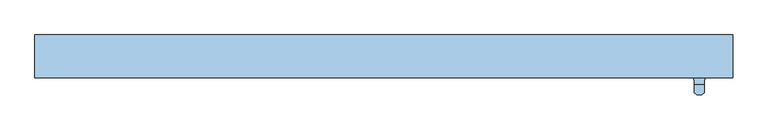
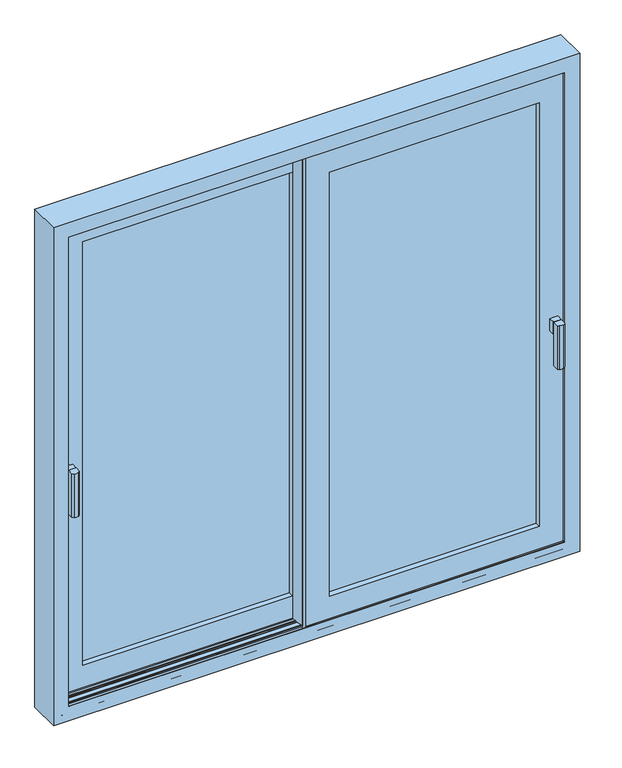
"""IFC4 building model written with IfcOpenShell, lengths in millimetres: window geometry, Windows_Opening-Slide_Exlabesa_ELEVABLE-GR-Balcony-2-Panel-Sliding : ELEVABLE_GR_2000x2000 mm Slide 3."""

from ifc_helpers import new_model, si_unit, point, frame, frame_2d, origin, place, context, project, spatial, polyline, circle_curve, ellipse_curve, trimmed, segment, composite_curve, outline, extrude, source, transform, mapped, element, save
from ifc_brep_helpers import plane_surface, cylinder_surface, revolved_surface, advanced_brep


def window_ca4f18a3(model_context):
    return source(origin(), model_context, "Body", "SolidModel", [
        extrude(outline(composite_curve([segment(trimmed(circle_curve(frame_2d((-147.2565194, 380.4626103)), 200.0), [point((45.9189448, 432.2626103))], [point((52.7425806, 379.8626103))], False, "CARTESIAN"), True, "CONTINUOUS"), segment(polyline([(52.7425806, 379.8626103), (-33.4565194, 379.8626103), (-33.4565194, 333.8344537), (-45.9189448, 333.8344537)]), True, "CONTINUOUS"), segment(trimmed(circle_curve(frame_2d((147.2565194, 385.6344537)), 200.0), [point((-45.9189448, 333.8344537))], [point((-52.7425806, 386.2344537))], False, "CARTESIAN"), True, "CONTINUOUS"), segment(polyline([(-52.7425806, 386.2344537), (33.4565194, 386.2344537), (33.4565194, 432.2626103), (45.9189448, 432.2626103)]), True, "CONTINUOUS")], self_intersect=False)), frame((0.0, 0.0, 60.0), z_axis=(0.0, 0.0, 1.0), x_axis=(1.0, 0.0, 0.0)), (0.0, 0.0, 1.0), 1880.0),
        advanced_brep(
        [(-13.56, 333.798532, 1917.0), (-13.56, 341.048532, 1917.0), (-13.56, 341.048532, 83.0), (-13.56, 333.798532, 83.0), (917.0, 341.048532, 1917.0), (917.0, 341.048532, 83.0), (9.94, 341.048532, 1893.5), (9.94, 341.048532, 106.5), (893.5, 341.048532, 106.5), (893.5, 341.048532, 1893.5), (917.0, 333.798532, 83.0), (949.4076311, 333.798532, 1949.4076311), (949.4076311, 333.798532, 50.5923689), (-45.9676311, 333.798532, 50.5923689), (-45.9676311, 333.798532, 1949.4076311), (917.0, 333.798532, 1917.0), (-36.4282391, 326.798532, 1939.8682391), (-36.4282391, 326.798532, 60.1317609), (939.8682391, 326.798532, 60.1317609), (939.8682391, 326.798532, 1939.8682391), (850.7, 326.798532, 1850.7), (850.7, 326.798532, 149.3), (52.74, 326.798532, 149.3), (52.74, 326.798532, 1850.7), (850.7, 347.798532, 149.3), (850.7, 347.798532, 1850.7), (52.74, 347.798532, 149.3), (52.74, 347.798532, 1850.7), (858.9, 347.798532, 1858.9), (858.9, 347.798532, 141.1), (44.54, 347.798532, 141.1), (44.54, 347.798532, 1858.9), (44.54, 344.798532, 1858.9), (44.54, 344.798532, 141.1), (858.9, 344.798532, 141.1), (872.7, 344.798532, 1872.7), (872.7, 344.798532, 127.3), (30.74, 344.798532, 127.3), (30.74, 344.798532, 1872.7), (858.9, 344.798532, 1858.9), (30.74, 348.898532, 1872.7), (30.74, 348.898532, 127.3), (872.7, 348.898532, 127.3), (877.2, 348.898532, 1877.2), (877.2, 348.898532, 122.8), (26.24, 348.898532, 122.8), (26.24, 348.898532, 1877.2), (872.7, 348.898532, 1872.7), (26.24, 372.298532, 1877.2), (26.24, 372.298532, 122.8), (877.2, 372.298532, 122.8), (877.2, 372.298532, 1877.2), (850.7, 372.298532, 1850.7), (850.7, 372.298532, 149.3), (52.74, 372.298532, 149.3), (52.74, 372.298532, 1850.7), (52.74, 377.298532, 1850.7), (52.74, 377.298532, 149.3), (850.7, 377.298532, 149.3), (939.8682391, 377.298532, 1939.8682391), (939.8682391, 377.298532, 60.1317609), (-36.4282391, 377.298532, 60.1317609), (-36.4282391, 377.298532, 1939.8682391), (850.7, 377.298532, 1850.7), (-45.9676311, 370.298532, 1949.4076311), (-45.9676311, 370.298532, 50.5923689), (949.4076311, 370.298532, 50.5923689), (949.4076311, 370.298532, 1949.4076311), (917.0, 370.298532, 1917.0), (917.0, 370.298532, 83.0), (-13.56, 370.298532, 83.0), (-13.56, 370.298532, 1917.0), (917.0, 363.048532, 83.0), (917.0, 363.048532, 1917.0), (-13.56, 363.048532, 83.0), (-13.56, 363.048532, 1917.0), (893.5, 363.048532, 1893.5), (893.5, 363.048532, 106.5), (9.94, 363.048532, 106.5), (9.94, 363.048532, 1893.5)],
        [
            (0, 1),
            (1, 2),
            (2, 3),
            (3, 0),
            (4, 5),
            (5, 2),
            (1, 4),
            (6, 7),
            (7, 8),
            (8, 9),
            (9, 6),
            (5, 10),
            (10, 3),
            (11, 12),
            (12, 13),
            (13, 14),
            (14, 11),
            (10, 15),
            (15, 0),
            (4, 15),
            (16, 17),
            (17, 18),
            (18, 19),
            (19, 16),
            (20, 21),
            (21, 22),
            (22, 23),
            (23, 20),
            (16, 14, ellipse_curve(frame((-36.4282391, 336.798532, 1939.8682391), z_axis=(-0.7071067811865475, 0.0, -0.7071067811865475), x_axis=(-0.7071067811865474, 0.0, 0.7071067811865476)), 14.1421356, 10.0)),
            (13, 17, ellipse_curve(frame((-36.4282391, 336.798532, 60.1317609), z_axis=(-0.7071067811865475, 0.0, 0.7071067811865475), x_axis=(0.7071067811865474, 0.0, 0.7071067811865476)), 14.1421356, 10.0)),
            (12, 18, ellipse_curve(frame((939.8682391, 336.798532, 60.1317609), z_axis=(-0.7071067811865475, 0.0, -0.7071067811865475), x_axis=(-0.7071067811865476, 0.0, 0.7071067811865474)), 14.1421356, 10.0)),
            (11, 19, ellipse_curve(frame((939.8682391, 336.798532, 1939.8682391), z_axis=(0.7071067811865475, 0.0, -0.7071067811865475), x_axis=(-0.7071067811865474, 0.0, -0.7071067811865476)), 14.1421356, 10.0)),
            (24, 21),
            (20, 25),
            (25, 24),
            (26, 22),
            (24, 26),
            (27, 23),
            (26, 27),
            (28, 29),
            (29, 30),
            (30, 31),
            (31, 28),
            (25, 27),
            (32, 31),
            (30, 33),
            (33, 32),
            (29, 34),
            (34, 33),
            (35, 36),
            (36, 37),
            (37, 38),
            (38, 35),
            (34, 39),
            (39, 32),
            (40, 38),
            (37, 41),
            (41, 40),
            (36, 42),
            (42, 41),
            (43, 44),
            (44, 45),
            (45, 46),
            (46, 43),
            (42, 47),
            (47, 40),
            (48, 46),
            (45, 49),
            (49, 48),
            (44, 50),
            (50, 49),
            (50, 51),
            (51, 48),
            (52, 53),
            (53, 54),
            (54, 55),
            (55, 52),
            (56, 55),
            (54, 57),
            (57, 56),
            (53, 58),
            (58, 57),
            (59, 60),
            (60, 61),
            (61, 62),
            (62, 59),
            (58, 63),
            (63, 56),
            (64, 62, ellipse_curve(frame((-36.4282391, 367.298532, 1939.8682391), z_axis=(-0.7071067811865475, 0.0, -0.7071067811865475), x_axis=(-0.7071067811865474, 0.0, 0.7071067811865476)), 14.1421356, 10.0)),
            (61, 65, ellipse_curve(frame((-36.4282391, 367.298532, 60.1317609), z_axis=(-0.7071067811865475, 0.0, 0.7071067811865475), x_axis=(0.7071067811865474, 0.0, 0.7071067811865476)), 14.1421356, 10.0)),
            (65, 64),
            (60, 66, ellipse_curve(frame((939.8682391, 367.298532, 60.1317609), z_axis=(-0.7071067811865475, 0.0, -0.7071067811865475), x_axis=(-0.7071067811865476, 0.0, 0.7071067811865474)), 14.1421356, 10.0)),
            (66, 65),
            (66, 67),
            (67, 64),
            (68, 69),
            (69, 70),
            (70, 71),
            (71, 68),
            (28, 39),
            (35, 47),
            (43, 51),
            (52, 63),
            (59, 67, ellipse_curve(frame((939.8682391, 367.298532, 1939.8682391), z_axis=(0.7071067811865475, 0.0, -0.7071067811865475), x_axis=(-0.7071067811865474, 0.0, -0.7071067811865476)), 14.1421356, 10.0)),
            (72, 69),
            (68, 73),
            (73, 72),
            (74, 70),
            (72, 74),
            (75, 71),
            (74, 75),
            (73, 75),
            (76, 77),
            (77, 78),
            (78, 79),
            (79, 76),
            (6, 79),
            (78, 7),
            (77, 8),
            (76, 9),
        ],
        [
            plane_surface(frame((-13.56, 341.048532, 1917.0), z_axis=(-1.0, 0.0, 0.0), x_axis=(0.0, 0.0, -1.0))),
            plane_surface(frame((893.5, 341.048532, 106.5), z_axis=(0.0, 1.0, 0.0), x_axis=(0.0, 0.0, 1.0))),
            plane_surface(frame((-13.56, 341.048532, 83.0), z_axis=(0.0, 0.0, -1.0), x_axis=(1.0, 0.0, 0.0))),
            plane_surface(frame((917.0, 333.798532, 83.0), z_axis=(0.0, 1.0, 0.0), x_axis=(0.0, 0.0, 1.0))),
            plane_surface(frame((917.0, 341.048532, 83.0), z_axis=(1.0, 0.0, 0.0), x_axis=(0.0, 0.0, 1.0))),
            plane_surface(frame((939.8682391, 326.798532, 60.1317609), z_axis=(0.0, -1.0, 0.0), x_axis=(0.0, 0.0, 1.0))),
            cylinder_surface(frame((-36.4282391, 336.798532, 2000.0), z_axis=(0.0, 0.0, 1.0), x_axis=(1.0, 0.0, 0.0)), 10.0),
            cylinder_surface(frame((-96.56, 336.798532, 60.1317609), z_axis=(-1.0, 0.0, 0.0), x_axis=(0.0, 0.0, 1.0)), 10.0),
            cylinder_surface(frame((939.8682391, 336.798532, 0.0), z_axis=(0.0, 0.0, -1.0), x_axis=(-1.0, 0.0, 0.0)), 10.0),
            plane_surface(frame((850.7, 326.798532, 149.3), z_axis=(-1.0, 0.0, 0.0), x_axis=(0.0, 0.0, 1.0))),
            plane_surface(frame((52.74, 326.798532, 149.3), z_axis=(0.0, 0.0, 1.0), x_axis=(1.0, 0.0, 0.0))),
            plane_surface(frame((52.74, 326.798532, 1850.7), z_axis=(1.0, 0.0, 0.0), x_axis=(0.0, 0.0, -1.0))),
            plane_surface(frame((850.7, 347.798532, 149.3), z_axis=(0.0, 1.0, 0.0), x_axis=(0.0, 0.0, 1.0))),
            plane_surface(frame((44.54, 347.798532, 1858.9), z_axis=(-1.0, 0.0, 0.0), x_axis=(0.0, 0.0, -1.0))),
            plane_surface(frame((44.54, 347.798532, 141.1), z_axis=(0.0, 0.0, -1.0), x_axis=(1.0, 0.0, 0.0))),
            plane_surface(frame((858.9, 344.798532, 141.1), z_axis=(0.0, 1.0, 0.0), x_axis=(0.0, 0.0, 1.0))),
            plane_surface(frame((30.74, 344.798532, 1872.7), z_axis=(1.0, 0.0, 0.0), x_axis=(0.0, 0.0, -1.0))),
            plane_surface(frame((30.74, 344.798532, 127.3), z_axis=(0.0, 0.0, 1.0), x_axis=(1.0, 0.0, 0.0))),
            plane_surface(frame((872.7, 348.898532, 127.3), z_axis=(0.0, 1.0, 0.0), x_axis=(0.0, 0.0, 1.0))),
            plane_surface(frame((26.24, 348.898532, 1877.2), z_axis=(1.0, 0.0, 0.0), x_axis=(0.0, 0.0, -1.0))),
            plane_surface(frame((26.24, 348.898532, 122.8), z_axis=(0.0, 0.0, 1.0), x_axis=(1.0, 0.0, 0.0))),
            plane_surface(frame((877.2, 372.298532, 122.8), z_axis=(0.0, -1.0, 0.0), x_axis=(0.0, 0.0, 1.0))),
            plane_surface(frame((52.74, 372.298532, 1850.7), z_axis=(1.0, 0.0, 0.0), x_axis=(0.0, 0.0, -1.0))),
            plane_surface(frame((52.74, 372.298532, 149.3), z_axis=(0.0, 0.0, 1.0), x_axis=(1.0, 0.0, 0.0))),
            plane_surface(frame((850.7, 377.298532, 149.3), z_axis=(0.0, 1.0, 0.0), x_axis=(0.0, 0.0, 1.0))),
            cylinder_surface(frame((-36.4282391, 367.298532, 2000.0), z_axis=(0.0, 0.0, 1.0), x_axis=(1.0, 0.0, 0.0)), 10.0),
            cylinder_surface(frame((-96.56, 367.298532, 60.1317609), z_axis=(-1.0, 0.0, 0.0), x_axis=(0.0, 0.0, 1.0)), 10.0),
            plane_surface(frame((949.4076311, 370.298532, 50.5923689), z_axis=(0.0, -1.0, 0.0), x_axis=(0.0, 0.0, 1.0))),
            plane_surface(frame((858.9, 347.798532, 141.1), z_axis=(1.0, 0.0, 0.0), x_axis=(0.0, 0.0, 1.0))),
            plane_surface(frame((872.7, 344.798532, 127.3), z_axis=(-1.0, 0.0, 0.0), x_axis=(0.0, 0.0, 1.0))),
            plane_surface(frame((877.2, 348.898532, 122.8), z_axis=(-1.0, 0.0, 0.0), x_axis=(0.0, 0.0, 1.0))),
            plane_surface(frame((850.7, 372.298532, 149.3), z_axis=(-1.0, 0.0, 0.0), x_axis=(0.0, 0.0, 1.0))),
            cylinder_surface(frame((939.8682391, 367.298532, 0.0), z_axis=(0.0, 0.0, -1.0), x_axis=(-1.0, 0.0, 0.0)), 10.0),
            plane_surface(frame((917.0, 370.298532, 83.0), z_axis=(1.0, 0.0, 0.0), x_axis=(0.0, 0.0, 1.0))),
            plane_surface(frame((-13.56, 370.298532, 83.0), z_axis=(0.0, 0.0, -1.0), x_axis=(1.0, 0.0, 0.0))),
            plane_surface(frame((-13.56, 370.298532, 1917.0), z_axis=(-1.0, 0.0, 0.0), x_axis=(0.0, 0.0, -1.0))),
            plane_surface(frame((917.0, 363.048532, 83.0), z_axis=(0.0, -1.0, 0.0), x_axis=(0.0, 0.0, 1.0))),
            plane_surface(frame((9.94, 363.048532, 1893.5), z_axis=(-1.0, 0.0, 0.0), x_axis=(0.0, 0.0, -1.0))),
            plane_surface(frame((9.94, 363.048532, 106.5), z_axis=(0.0, 0.0, -1.0), x_axis=(1.0, 0.0, 0.0))),
            plane_surface(frame((893.5, 363.048532, 106.5), z_axis=(1.0, 0.0, 0.0), x_axis=(0.0, 0.0, 1.0))),
            plane_surface(frame((917.0, 341.048532, 1917.0), z_axis=(0.0, 0.0, 1.0), x_axis=(-1.0, 0.0, 0.0))),
            plane_surface(frame((850.7, 326.798532, 1850.7), z_axis=(0.0, 0.0, -1.0), x_axis=(-1.0, 0.0, 0.0))),
            plane_surface(frame((858.9, 347.798532, 1858.9), z_axis=(0.0, 0.0, 1.0), x_axis=(-1.0, 0.0, 0.0))),
            plane_surface(frame((872.7, 344.798532, 1872.7), z_axis=(0.0, 0.0, -1.0), x_axis=(-1.0, 0.0, 0.0))),
            plane_surface(frame((877.2, 348.898532, 1877.2), z_axis=(0.0, 0.0, -1.0), x_axis=(-1.0, 0.0, 0.0))),
            plane_surface(frame((850.7, 372.298532, 1850.7), z_axis=(0.0, 0.0, -1.0), x_axis=(-1.0, 0.0, 0.0))),
            cylinder_surface(frame((1000.0, 367.298532, 1939.8682391), z_axis=(1.0, 0.0, 0.0), x_axis=(0.0, 0.0, -1.0)), 10.0),
            cylinder_surface(frame((1000.0, 336.798532, 1939.8682391), z_axis=(1.0, 0.0, 0.0), x_axis=(0.0, 0.0, -1.0)), 10.0),
            plane_surface(frame((917.0, 370.298532, 1917.0), z_axis=(0.0, 0.0, 1.0), x_axis=(-1.0, 0.0, 0.0))),
            plane_surface(frame((893.5, 363.048532, 1893.5), z_axis=(0.0, 0.0, 1.0), x_axis=(-1.0, 0.0, 0.0))),
        ],
        [
            (0, [[1, 2, 3, 4]]),
            (1, [[5, 6, -2, 7], [8, 9, 10, 11]]),
            (2, [[-3, -6, 12, 13]]),
            (3, [[14, 15, 16, 17], [-4, -13, 18, 19]]),
            (4, [[-12, -5, 20, -18]]),
            (5, [[21, 22, 23, 24], [25, 26, 27, 28]]),
            (6, [[29, -16, 30, -21]]),
            (7, [[-30, -15, 31, -22]]),
            (8, [[-31, -14, 32, -23]]),
            (9, [[33, -25, 34, 35]]),
            (10, [[36, -26, -33, 37]]),
            (11, [[38, -27, -36, 39]]),
            (12, [[40, 41, 42, 43], [-39, -37, -35, 44]]),
            (13, [[45, -42, 46, 47]]),
            (14, [[-46, -41, 48, 49]]),
            (15, [[50, 51, 52, 53], [-47, -49, 54, 55]]),
            (16, [[56, -52, 57, 58]]),
            (17, [[-57, -51, 59, 60]]),
            (18, [[61, 62, 63, 64], [-58, -60, 65, 66]]),
            (19, [[67, -63, 68, 69]]),
            (20, [[-68, -62, 70, 71]]),
            (21, [[-69, -71, 72, 73], [74, 75, 76, 77]]),
            (22, [[78, -76, 79, 80]]),
            (23, [[-79, -75, 81, 82]]),
            (24, [[83, 84, 85, 86], [-80, -82, 87, 88]]),
            (25, [[89, -85, 90, 91]]),
            (26, [[-90, -84, 92, 93]]),
            (27, [[-91, -93, 94, 95], [96, 97, 98, 99]]),
            (28, [[-48, -40, 100, -54]]),
            (29, [[-59, -50, 101, -65]]),
            (30, [[-70, -61, 102, -72]]),
            (31, [[-81, -74, 103, -87]]),
            (32, [[-92, -83, 104, -94]]),
            (33, [[105, -96, 106, 107]]),
            (34, [[108, -97, -105, 109]]),
            (35, [[110, -98, -108, 111]]),
            (36, [[-111, -109, -107, 112], [113, 114, 115, 116]]),
            (37, [[117, -115, 118, -8]]),
            (38, [[-118, -114, 119, -9]]),
            (39, [[-119, -113, 120, -10]]),
            (40, [[-20, -7, -1, -19]]),
            (41, [[-34, -28, -38, -44]]),
            (42, [[-100, -43, -45, -55]]),
            (43, [[-101, -53, -56, -66]]),
            (44, [[-102, -64, -67, -73]]),
            (45, [[-103, -77, -78, -88]]),
            (46, [[-104, -86, -89, -95]]),
            (47, [[-32, -17, -29, -24]]),
            (48, [[-106, -99, -110, -112]]),
            (49, [[-120, -116, -117, -11]]),
        ],
    ),
        advanced_brep(
        [(-1000.0, 321.548532, 2000.0), (-1000.0, 444.548532, 2000.0), (-1000.0, 444.548532, 0.0), (-1000.0, 321.548532, 0.0), (1000.0, 444.548532, 2000.0), (1000.0, 444.548532, 0.0), (-972.7679492, 444.548532, 1972.7679492), (-972.7679492, 444.548532, 27.2320508), (972.7679492, 444.548532, 27.2320508), (972.7679492, 444.548532, 1972.7679492), (1000.0, 321.548532, 0.0), (1000.0, 321.548532, 2000.0), (942.0, 321.548532, 1942.0), (942.0, 321.548532, 58.0), (-942.0, 321.548532, 58.0), (-942.0, 321.548532, 1942.0), (-960.2971834, 422.948532, 1960.2971834), (-960.2971834, 422.948532, 39.7028166), (960.2971834, 422.948532, 39.7028166), (960.2971834, 422.948532, 1960.2971834), (-942.0, 323.348532, 1942.0), (-942.0, 323.348532, 58.0), (942.0, 323.348532, 58.0), (968.0, 323.348532, 1968.0), (968.0, 323.348532, 32.0), (-968.0, 323.348532, 32.0), (-968.0, 323.348532, 1968.0), (942.0, 323.348532, 1942.0), (-969.7320508, 326.348532, 1969.7320508), (-969.7320508, 326.348532, 30.2679492), (969.7320508, 326.348532, 30.2679492), (-960.0325663, 343.148532, 1960.0325663), (-960.0325663, 343.148532, 39.9674337), (960.0325663, 343.148532, 39.9674337), (960.0325663, 343.148532, 1960.0325663), (945.0, 343.148532, 1945.0), (945.0, 343.148532, 55.0), (-945.0, 343.148532, 55.0), (-945.0, 343.148532, 1945.0), (-945.0, 336.798532, 1945.0), (-945.0, 336.798532, 55.0), (945.0, 336.798532, 55.0), (945.0, 336.798532, 1945.0), (940.0, 336.798532, 1940.0), (940.0, 336.798532, 60.0), (-940.0, 336.798532, 60.0), (-940.0, 336.798532, 1940.0), (-940.0, 341.748532, 1940.0), (-940.0, 341.748532, 60.0), (940.0, 341.748532, 60.0), (942.0, 341.748532, 1942.0), (942.0, 341.748532, 58.0), (-942.0, 341.748532, 58.0), (-942.0, 341.748532, 1942.0), (940.0, 341.748532, 1940.0), (-942.0, 362.348532, 1942.0), (-942.0, 362.348532, 58.0), (942.0, 362.348532, 58.0), (942.0, 362.348532, 1942.0), (940.0, 362.348532, 1940.0), (940.0, 362.348532, 60.0), (-940.0, 362.348532, 60.0), (-940.0, 362.348532, 1940.0), (-940.0, 367.298532, 1940.0), (-940.0, 367.298532, 60.0), (940.0, 367.298532, 60.0), (945.0, 367.298532, 1945.0), (945.0, 367.298532, 55.0), (-945.0, 367.298532, 55.0), (-945.0, 367.298532, 1945.0), (940.0, 367.298532, 1940.0), (-945.0, 362.748532, 1945.0), (-945.0, 362.748532, 55.0), (945.0, 362.748532, 55.0), (964.5240287, 362.748532, 1964.5240287), (964.5240287, 362.748532, 35.4759713), (-964.5240287, 362.748532, 35.4759713), (-964.5240287, 362.748532, 1964.5240287), (945.0, 362.748532, 1945.0), (-965.2327287, 403.348532, 1965.2327287), (-965.2327287, 403.348532, 34.7672713), (965.2327287, 403.348532, 34.7672713), (965.2327287, 403.348532, 1965.2327287), (945.0, 403.348532, 1945.0), (945.0, 403.348532, 55.0), (-945.0, 403.348532, 55.0), (-945.0, 403.348532, 1945.0), (-945.0, 398.798532, 1945.0), (-945.0, 398.798532, 55.0), (945.0, 398.798532, 55.0), (945.0, 398.798532, 1945.0), (940.0, 398.798532, 1940.0), (940.0, 398.798532, 60.0), (-940.0, 398.798532, 60.0), (-940.0, 398.798532, 1940.0), (-940.0, 403.748532, 1940.0), (-940.0, 403.748532, 60.0), (940.0, 403.748532, 60.0), (942.0, 403.748532, 1942.0), (942.0, 403.748532, 58.0), (-942.0, 403.748532, 58.0), (-942.0, 403.748532, 1942.0), (940.0, 403.748532, 1940.0), (-942.0, 424.348532, 1942.0), (-942.0, 424.348532, 58.0), (942.0, 424.348532, 58.0), (942.0, 424.348532, 1942.0), (940.0, 424.348532, 1940.0), (940.0, 424.348532, 60.0), (-940.0, 424.348532, 60.0), (-940.0, 424.348532, 1940.0), (-940.0, 429.298532, 1940.0), (-940.0, 429.298532, 60.0), (940.0, 429.298532, 60.0), (945.0, 429.298532, 1945.0), (945.0, 429.298532, 55.0), (-945.0, 429.298532, 55.0), (-945.0, 429.298532, 1945.0), (940.0, 429.298532, 1940.0), (-945.0, 422.948532, 1945.0), (-945.0, 422.948532, 55.0), (945.0, 422.948532, 55.0), (945.0, 422.948532, 1945.0), (969.7320508, 326.348532, 1969.7320508)],
        [
            (0, 1),
            (1, 2),
            (2, 3),
            (3, 0),
            (4, 5),
            (5, 2),
            (1, 4),
            (6, 7),
            (7, 8),
            (8, 9),
            (9, 6),
            (5, 10),
            (10, 3),
            (10, 11),
            (11, 0),
            (12, 13),
            (13, 14),
            (14, 15),
            (15, 12),
            (4, 11),
            (6, 16),
            (16, 17),
            (17, 7),
            (17, 18),
            (18, 8),
            (18, 19),
            (19, 9),
            (20, 15),
            (14, 21),
            (21, 20),
            (13, 22),
            (22, 21),
            (23, 24),
            (24, 25),
            (25, 26),
            (26, 23),
            (22, 27),
            (27, 20),
            (28, 26, ellipse_curve(frame((-968.0, 325.348532, 1968.0), z_axis=(0.7071067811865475, 0.0, 0.7071067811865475), x_axis=(0.7071067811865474, 0.0, -0.7071067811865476)), 2.8284271, 2.0)),
            (25, 29, ellipse_curve(frame((-968.0, 325.348532, 32.0), z_axis=(0.7071067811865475, 0.0, -0.7071067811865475), x_axis=(-0.7071067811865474, 0.0, -0.7071067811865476)), 2.8284271, 2.0)),
            (29, 28),
            (24, 30, ellipse_curve(frame((968.0, 325.348532, 32.0), z_axis=(0.7071067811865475, 0.0, 0.7071067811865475), x_axis=(0.7071067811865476, 0.0, -0.7071067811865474)), 2.8284271, 2.0)),
            (30, 29),
            (31, 28),
            (29, 32),
            (32, 31),
            (30, 33),
            (33, 32),
            (33, 34),
            (34, 31),
            (35, 36),
            (36, 37),
            (37, 38),
            (38, 35),
            (39, 38),
            (37, 40),
            (40, 39),
            (36, 41),
            (41, 40),
            (41, 42),
            (42, 39),
            (43, 44),
            (44, 45),
            (45, 46),
            (46, 43),
            (47, 46),
            (45, 48),
            (48, 47),
            (44, 49),
            (49, 48),
            (50, 51),
            (51, 52),
            (52, 53),
            (53, 50),
            (49, 54),
            (54, 47),
            (55, 53),
            (52, 56),
            (56, 55),
            (51, 57),
            (57, 56),
            (57, 58),
            (58, 55),
            (59, 60),
            (60, 61),
            (61, 62),
            (62, 59),
            (63, 62),
            (61, 64),
            (64, 63),
            (60, 65),
            (65, 64),
            (66, 67),
            (67, 68),
            (68, 69),
            (69, 66),
            (65, 70),
            (70, 63),
            (71, 69),
            (68, 72),
            (72, 71),
            (67, 73),
            (73, 72),
            (74, 75),
            (75, 76),
            (76, 77),
            (77, 74),
            (73, 78),
            (78, 71),
            (79, 77),
            (76, 80),
            (80, 79),
            (75, 81),
            (81, 80),
            (81, 82),
            (82, 79),
            (83, 84),
            (84, 85),
            (85, 86),
            (86, 83),
            (87, 86),
            (85, 88),
            (88, 87),
            (84, 89),
            (89, 88),
            (89, 90),
            (90, 87),
            (91, 92),
            (92, 93),
            (93, 94),
            (94, 91),
            (95, 94),
            (93, 96),
            (96, 95),
            (92, 97),
            (97, 96),
            (98, 99),
            (99, 100),
            (100, 101),
            (101, 98),
            (97, 102),
            (102, 95),
            (103, 101),
            (100, 104),
            (104, 103),
            (99, 105),
            (105, 104),
            (105, 106),
            (106, 103),
            (107, 108),
            (108, 109),
            (109, 110),
            (110, 107),
            (111, 110),
            (109, 112),
            (112, 111),
            (108, 113),
            (113, 112),
            (114, 115),
            (115, 116),
            (116, 117),
            (117, 114),
            (113, 118),
            (118, 111),
            (119, 117),
            (116, 120),
            (120, 119),
            (115, 121),
            (121, 120),
            (16, 19),
            (121, 122),
            (122, 119),
            (12, 27),
            (23, 123, ellipse_curve(frame((968.0, 325.348532, 1968.0), z_axis=(-0.7071067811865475, 0.0, 0.7071067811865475), x_axis=(0.7071067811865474, 0.0, 0.7071067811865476)), 2.8284271, 2.0)),
            (123, 30),
            (123, 34),
            (35, 42),
            (43, 54),
            (50, 58),
            (59, 70),
            (66, 78),
            (74, 82),
            (83, 90),
            (91, 102),
            (98, 106),
            (107, 118),
            (114, 122),
            (28, 123),
        ],
        [
            plane_surface(frame((-1000.0, 444.548532, 2000.0), z_axis=(-1.0, 0.0, 0.0), x_axis=(0.0, 0.0, -1.0))),
            plane_surface(frame((972.7679492, 444.548532, 27.2320508), z_axis=(0.0, 1.0, 0.0), x_axis=(0.0, 0.0, 1.0))),
            plane_surface(frame((-1000.0, 444.548532, 0.0), z_axis=(0.0, 0.0, -1.0), x_axis=(1.0, 0.0, 0.0))),
            plane_surface(frame((1000.0, 321.548532, 0.0), z_axis=(0.0, -1.0, 0.0), x_axis=(0.0, 0.0, 1.0))),
            plane_surface(frame((1000.0, 444.548532, 0.0), z_axis=(1.0, 0.0, 0.0), x_axis=(0.0, 0.0, 1.0))),
            plane_surface(frame((-960.2971834, 422.948532, 1960.2971834), z_axis=(0.8660254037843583, 0.5000000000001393, 0.0), x_axis=(0.0, 0.0, -1.0))),
            plane_surface(frame((-960.2971834, 422.948532, 39.7028166), z_axis=(0.0, 0.5000000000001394, 0.8660254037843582), x_axis=(1.0, 0.0, 0.0))),
            plane_surface(frame((960.2971834, 422.948532, 39.7028166), z_axis=(-0.8660254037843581, 0.5000000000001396, 0.0), x_axis=(0.0, 0.0, 1.0))),
            plane_surface(frame((-942.0, 321.548532, 1942.0), z_axis=(1.0, 0.0, 0.0), x_axis=(0.0, 0.0, -1.0))),
            plane_surface(frame((-942.0, 321.548532, 58.0), z_axis=(0.0, 0.0, 1.0), x_axis=(1.0, 0.0, 0.0))),
            plane_surface(frame((942.0, 323.348532, 58.0), z_axis=(0.0, 1.0, 0.0), x_axis=(0.0, 0.0, 1.0))),
            revolved_surface(polyline([(-966.0, 325.348532, 30.000000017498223), (-966.0, 325.348532, 1969.9999999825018)]), (-968.0, 325.348532, 2000.0), (0.0, 0.0, -1.0)),
            revolved_surface(polyline([(969.9999999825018, 325.348532, 34.0), (-969.9999999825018, 325.348532, 34.0)]), (-1000.0, 325.348532, 32.0), (1.0, 0.0, 0.0)),
            plane_surface(frame((-969.7320508, 326.348532, 1969.7320508), z_axis=(0.8660254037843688, -0.5000000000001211, 0.0), x_axis=(0.0, 0.0, -1.0))),
            plane_surface(frame((-969.7320508, 326.348532, 30.2679492), z_axis=(0.0, -0.500000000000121, 0.8660254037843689), x_axis=(1.0, 0.0, 0.0))),
            plane_surface(frame((960.0325663, 343.148532, 39.9674337), z_axis=(0.0, -1.0, 0.0), x_axis=(0.0, 0.0, 1.0))),
            plane_surface(frame((-945.0, 343.148532, 1945.0), z_axis=(-1.0, 0.0, 0.0), x_axis=(0.0, 0.0, -1.0))),
            plane_surface(frame((-945.0, 343.148532, 55.0), z_axis=(0.0, 0.0, -1.0), x_axis=(1.0, 0.0, 0.0))),
            plane_surface(frame((945.0, 336.798532, 55.0), z_axis=(0.0, -1.0, 0.0), x_axis=(0.0, 0.0, 1.0))),
            plane_surface(frame((-940.0, 336.798532, 1940.0), z_axis=(1.0, 0.0, 0.0), x_axis=(0.0, 0.0, -1.0))),
            plane_surface(frame((-940.0, 336.798532, 60.0), z_axis=(0.0, 0.0, 1.0), x_axis=(1.0, 0.0, 0.0))),
            plane_surface(frame((940.0, 341.748532, 60.0), z_axis=(0.0, 1.0, 0.0), x_axis=(0.0, 0.0, 1.0))),
            plane_surface(frame((-942.0, 341.748532, 1942.0), z_axis=(1.0, 0.0, 0.0), x_axis=(0.0, 0.0, -1.0))),
            plane_surface(frame((-942.0, 341.748532, 58.0), z_axis=(0.0, 0.0, 1.0), x_axis=(1.0, 0.0, 0.0))),
            plane_surface(frame((942.0, 362.348532, 58.0), z_axis=(0.0, -1.0, 0.0), x_axis=(0.0, 0.0, 1.0))),
            plane_surface(frame((-940.0, 362.348532, 1940.0), z_axis=(1.0, 0.0, 0.0), x_axis=(0.0, 0.0, -1.0))),
            plane_surface(frame((-940.0, 362.348532, 60.0), z_axis=(0.0, 0.0, 1.0), x_axis=(1.0, 0.0, 0.0))),
            plane_surface(frame((940.0, 367.298532, 60.0), z_axis=(0.0, 1.0, 0.0), x_axis=(0.0, 0.0, 1.0))),
            plane_surface(frame((-945.0, 367.298532, 1945.0), z_axis=(-1.0, 0.0, 0.0), x_axis=(0.0, 0.0, -1.0))),
            plane_surface(frame((-945.0, 367.298532, 55.0), z_axis=(0.0, 0.0, -1.0), x_axis=(1.0, 0.0, 0.0))),
            plane_surface(frame((945.0, 362.748532, 55.0), z_axis=(0.0, 1.0, 0.0), x_axis=(0.0, 0.0, 1.0))),
            plane_surface(frame((-964.5240287, 362.748532, 1964.5240287), z_axis=(0.999847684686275, 0.01745300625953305, 0.0), x_axis=(0.0, 0.0, -1.0))),
            plane_surface(frame((-964.5240287, 362.748532, 35.4759713), z_axis=(0.0, 0.017453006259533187, 0.999847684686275), x_axis=(1.0, 0.0, 0.0))),
            plane_surface(frame((965.2327287, 403.348532, 34.7672713), z_axis=(0.0, -1.0, 0.0), x_axis=(0.0, 0.0, 1.0))),
            plane_surface(frame((-945.0, 403.348532, 1945.0), z_axis=(-1.0, 0.0, 0.0), x_axis=(0.0, 0.0, -1.0))),
            plane_surface(frame((-945.0, 403.348532, 55.0), z_axis=(0.0, 0.0, -1.0), x_axis=(1.0, 0.0, 0.0))),
            plane_surface(frame((945.0, 398.798532, 55.0), z_axis=(0.0, -1.0, 0.0), x_axis=(0.0, 0.0, 1.0))),
            plane_surface(frame((-940.0, 398.798532, 1940.0), z_axis=(1.0, 0.0, 0.0), x_axis=(0.0, 0.0, -1.0))),
            plane_surface(frame((-940.0, 398.798532, 60.0), z_axis=(0.0, 0.0, 1.0), x_axis=(1.0, 0.0, 0.0))),
            plane_surface(frame((940.0, 403.748532, 60.0), z_axis=(0.0, 1.0, 0.0), x_axis=(0.0, 0.0, 1.0))),
            plane_surface(frame((-942.0, 403.748532, 1942.0), z_axis=(1.0, 0.0, 0.0), x_axis=(0.0, 0.0, -1.0))),
            plane_surface(frame((-942.0, 403.748532, 58.0), z_axis=(0.0, 0.0, 1.0), x_axis=(1.0, 0.0, 0.0))),
            plane_surface(frame((942.0, 424.348532, 58.0), z_axis=(0.0, -1.0, 0.0), x_axis=(0.0, 0.0, 1.0))),
            plane_surface(frame((-940.0, 424.348532, 1940.0), z_axis=(1.0, 0.0, 0.0), x_axis=(0.0, 0.0, -1.0))),
            plane_surface(frame((-940.0, 424.348532, 60.0), z_axis=(0.0, 0.0, 1.0), x_axis=(1.0, 0.0, 0.0))),
            plane_surface(frame((940.0, 429.298532, 60.0), z_axis=(0.0, 1.0, 0.0), x_axis=(0.0, 0.0, 1.0))),
            plane_surface(frame((-945.0, 429.298532, 1945.0), z_axis=(-1.0, 0.0, 0.0), x_axis=(0.0, 0.0, -1.0))),
            plane_surface(frame((-945.0, 429.298532, 55.0), z_axis=(0.0, 0.0, -1.0), x_axis=(1.0, 0.0, 0.0))),
            plane_surface(frame((945.0, 422.948532, 55.0), z_axis=(0.0, 1.0, 0.0), x_axis=(0.0, 0.0, 1.0))),
            plane_surface(frame((942.0, 321.548532, 58.0), z_axis=(-1.0, 0.0, 0.0), x_axis=(0.0, 0.0, 1.0))),
            revolved_surface(polyline([(966.0, 325.348532, 1969.9999999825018), (966.0, 325.348532, 30.0000000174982)]), (968.0, 325.348532, 0.0), (0.0, 0.0, 1.0)),
            plane_surface(frame((969.7320508, 326.348532, 30.2679492), z_axis=(-0.866025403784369, -0.5000000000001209, 0.0), x_axis=(0.0, 0.0, 1.0))),
            plane_surface(frame((945.0, 343.148532, 55.0), z_axis=(1.0, 0.0, 0.0), x_axis=(0.0, 0.0, 1.0))),
            plane_surface(frame((940.0, 336.798532, 60.0), z_axis=(-1.0, 0.0, 0.0), x_axis=(0.0, 0.0, 1.0))),
            plane_surface(frame((942.0, 341.748532, 58.0), z_axis=(-1.0, 0.0, 0.0), x_axis=(0.0, 0.0, 1.0))),
            plane_surface(frame((940.0, 362.348532, 60.0), z_axis=(-1.0, 0.0, 0.0), x_axis=(0.0, 0.0, 1.0))),
            plane_surface(frame((945.0, 367.298532, 55.0), z_axis=(1.0, 0.0, 0.0), x_axis=(0.0, 0.0, 1.0))),
            plane_surface(frame((964.5240287, 362.748532, 35.4759713), z_axis=(-0.999847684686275, 0.017453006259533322, 0.0), x_axis=(0.0, 0.0, 1.0))),
            plane_surface(frame((945.0, 403.348532, 55.0), z_axis=(1.0, 0.0, 0.0), x_axis=(0.0, 0.0, 1.0))),
            plane_surface(frame((940.0, 398.798532, 60.0), z_axis=(-1.0, 0.0, 0.0), x_axis=(0.0, 0.0, 1.0))),
            plane_surface(frame((942.0, 403.748532, 58.0), z_axis=(-1.0, 0.0, 0.0), x_axis=(0.0, 0.0, 1.0))),
            plane_surface(frame((940.0, 424.348532, 60.0), z_axis=(-1.0, 0.0, 0.0), x_axis=(0.0, 0.0, 1.0))),
            plane_surface(frame((945.0, 429.298532, 55.0), z_axis=(1.0, 0.0, 0.0), x_axis=(0.0, 0.0, 1.0))),
            plane_surface(frame((1000.0, 444.548532, 2000.0), z_axis=(0.0, 0.0, 1.0), x_axis=(-1.0, 0.0, 0.0))),
            plane_surface(frame((942.0, 321.548532, 1942.0), z_axis=(0.0, 0.0, -1.0), x_axis=(-1.0, 0.0, 0.0))),
            revolved_surface(polyline([(-969.9999999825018, 325.348532, 1966.0), (969.9999999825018, 325.348532, 1966.0)]), (1000.0, 325.348532, 1968.0), (-1.0, 0.0, 0.0)),
            plane_surface(frame((969.7320508, 326.348532, 1969.7320508), z_axis=(0.0, -0.500000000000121, -0.8660254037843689), x_axis=(-1.0, 0.0, 0.0))),
            plane_surface(frame((945.0, 343.148532, 1945.0), z_axis=(0.0, 0.0, 1.0), x_axis=(-1.0, 0.0, 0.0))),
            plane_surface(frame((940.0, 336.798532, 1940.0), z_axis=(0.0, 0.0, -1.0), x_axis=(-1.0, 0.0, 0.0))),
            plane_surface(frame((942.0, 341.748532, 1942.0), z_axis=(0.0, 0.0, -1.0), x_axis=(-1.0, 0.0, 0.0))),
            plane_surface(frame((940.0, 362.348532, 1940.0), z_axis=(0.0, 0.0, -1.0), x_axis=(-1.0, 0.0, 0.0))),
            plane_surface(frame((945.0, 367.298532, 1945.0), z_axis=(0.0, 0.0, 1.0), x_axis=(-1.0, 0.0, 0.0))),
            plane_surface(frame((964.5240287, 362.748532, 1964.5240287), z_axis=(0.0, 0.017453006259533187, -0.999847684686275), x_axis=(-1.0, 0.0, 0.0))),
            plane_surface(frame((945.0, 403.348532, 1945.0), z_axis=(0.0, 0.0, 1.0), x_axis=(-1.0, 0.0, 0.0))),
            plane_surface(frame((940.0, 398.798532, 1940.0), z_axis=(0.0, 0.0, -1.0), x_axis=(-1.0, 0.0, 0.0))),
            plane_surface(frame((942.0, 403.748532, 1942.0), z_axis=(0.0, 0.0, -1.0), x_axis=(-1.0, 0.0, 0.0))),
            plane_surface(frame((940.0, 424.348532, 1940.0), z_axis=(0.0, 0.0, -1.0), x_axis=(-1.0, 0.0, 0.0))),
            plane_surface(frame((945.0, 429.298532, 1945.0), z_axis=(0.0, 0.0, 1.0), x_axis=(-1.0, 0.0, 0.0))),
            plane_surface(frame((960.2971834, 422.948532, 1960.2971834), z_axis=(0.0, 0.5000000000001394, -0.8660254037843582), x_axis=(-1.0, 0.0, 0.0))),
        ],
        [
            (0, [[1, 2, 3, 4]]),
            (1, [[5, 6, -2, 7], [8, 9, 10, 11]]),
            (2, [[-3, -6, 12, 13]]),
            (3, [[-4, -13, 14, 15], [16, 17, 18, 19]]),
            (4, [[-12, -5, 20, -14]]),
            (5, [[21, 22, 23, -8]]),
            (6, [[-23, 24, 25, -9]]),
            (7, [[-25, 26, 27, -10]]),
            (8, [[28, -18, 29, 30]]),
            (9, [[-29, -17, 31, 32]]),
            (10, [[33, 34, 35, 36], [-30, -32, 37, 38]]),
            (11, [[39, -35, 40, 41]]),
            (12, [[-40, -34, 42, 43]]),
            (13, [[44, -41, 45, 46]]),
            (14, [[-45, -43, 47, 48]]),
            (15, [[-46, -48, 49, 50], [51, 52, 53, 54]]),
            (16, [[55, -53, 56, 57]]),
            (17, [[-56, -52, 58, 59]]),
            (18, [[-57, -59, 60, 61], [62, 63, 64, 65]]),
            (19, [[66, -64, 67, 68]]),
            (20, [[-67, -63, 69, 70]]),
            (21, [[71, 72, 73, 74], [-68, -70, 75, 76]]),
            (22, [[77, -73, 78, 79]]),
            (23, [[-78, -72, 80, 81]]),
            (24, [[-79, -81, 82, 83], [84, 85, 86, 87]]),
            (25, [[88, -86, 89, 90]]),
            (26, [[-89, -85, 91, 92]]),
            (27, [[93, 94, 95, 96], [-90, -92, 97, 98]]),
            (28, [[99, -95, 100, 101]]),
            (29, [[-100, -94, 102, 103]]),
            (30, [[104, 105, 106, 107], [-101, -103, 108, 109]]),
            (31, [[110, -106, 111, 112]]),
            (32, [[-111, -105, 113, 114]]),
            (33, [[-112, -114, 115, 116], [117, 118, 119, 120]]),
            (34, [[121, -119, 122, 123]]),
            (35, [[-122, -118, 124, 125]]),
            (36, [[-123, -125, 126, 127], [128, 129, 130, 131]]),
            (37, [[132, -130, 133, 134]]),
            (38, [[-133, -129, 135, 136]]),
            (39, [[137, 138, 139, 140], [-134, -136, 141, 142]]),
            (40, [[143, -139, 144, 145]]),
            (41, [[-144, -138, 146, 147]]),
            (42, [[-145, -147, 148, 149], [150, 151, 152, 153]]),
            (43, [[154, -152, 155, 156]]),
            (44, [[-155, -151, 157, 158]]),
            (45, [[159, 160, 161, 162], [-156, -158, 163, 164]]),
            (46, [[165, -161, 166, 167]]),
            (47, [[-166, -160, 168, 169]]),
            (48, [[-26, -24, -22, 170], [-167, -169, 171, 172]]),
            (49, [[-31, -16, 173, -37]]),
            (50, [[-42, -33, 174, 175]]),
            (51, [[-47, -175, 176, -49]]),
            (52, [[-58, -51, 177, -60]]),
            (53, [[-69, -62, 178, -75]]),
            (54, [[-80, -71, 179, -82]]),
            (55, [[-91, -84, 180, -97]]),
            (56, [[-102, -93, 181, -108]]),
            (57, [[-113, -104, 182, -115]]),
            (58, [[-124, -117, 183, -126]]),
            (59, [[-135, -128, 184, -141]]),
            (60, [[-146, -137, 185, -148]]),
            (61, [[-157, -150, 186, -163]]),
            (62, [[-168, -159, 187, -171]]),
            (63, [[-20, -7, -1, -15]]),
            (64, [[-173, -19, -28, -38]]),
            (65, [[-174, -36, -39, 188]]),
            (66, [[-176, -188, -44, -50]]),
            (67, [[-177, -54, -55, -61]]),
            (68, [[-178, -65, -66, -76]]),
            (69, [[-179, -74, -77, -83]]),
            (70, [[-180, -87, -88, -98]]),
            (71, [[-181, -96, -99, -109]]),
            (72, [[-182, -107, -110, -116]]),
            (73, [[-183, -120, -121, -127]]),
            (74, [[-184, -131, -132, -142]]),
            (75, [[-185, -140, -143, -149]]),
            (76, [[-186, -153, -154, -164]]),
            (77, [[-187, -162, -165, -172]]),
            (78, [[-27, -170, -21, -11]]),
        ],
    ),
        extrude(outline(polyline([(918.7551549, 302.1960829), (918.7551549, 279.5458754), (912.286663, 273.0773836), (896.7631033, 273.0773836), (890.2946114, 279.5458754), (890.2946114, 302.1960829), (918.7551549, 302.1960829)])), frame((0.0, 0.0, 796.24), z_axis=(0.0, 0.0, 1.0), x_axis=(1.0, 0.0, 0.0)), (0.0, 0.0, 1.0), 175.0),
        extrude(outline(polyline([(918.8087599, 303.1987559), (917.4910378, 303.1987559), (917.4910378, 302.1960829), (891.5587285, 302.1960829), (891.5587285, 303.1987559), (890.2410064, 303.1987559), (888.9544282, 326.798532), (920.0455718, 326.798532), (918.8087599, 303.1987559)])), frame((0.0, 0.0, 921.24), z_axis=(0.0, 0.0, 1.0), x_axis=(1.0, 0.0, 0.0)), (0.0, 0.0, 1.0), 50.0),
        extrude(outline(polyline([(-890.2697283, 364.1960829), (-890.2697283, 341.5458754), (-896.7382202, 335.0773836), (-912.2617798, 335.0773836), (-918.7302717, 341.5458754), (-918.7302717, 364.1960829), (-890.2697283, 364.1960829)])), frame((0.0, 0.0, 796.24), z_axis=(0.0, 0.0, 1.0), x_axis=(1.0, 0.0, 0.0)), (0.0, 0.0, 1.0), 175.0),
        extrude(outline(polyline([(-890.2161232, 365.1987559), (-891.5338454, 365.1987559), (-891.5338454, 364.1960829), (-917.4661546, 364.1960829), (-917.4661546, 365.1987559), (-918.7838768, 365.1987559), (-920.0704549, 388.798532), (-888.9793114, 388.798532), (-890.2161232, 365.1987559)])), frame((0.0, 0.0, 921.24), z_axis=(0.0, 0.0, 1.0), x_axis=(1.0, 0.0, 0.0)), (0.0, 0.0, 1.0), 50.0),
        advanced_brep(
        [(13.56, 403.048532, 1917.0), (13.56, 395.798532, 1917.0), (13.56, 395.798532, 83.0), (13.56, 403.048532, 83.0), (45.9676311, 395.798532, 1949.4076311), (45.9676311, 395.798532, 50.5923689), (-949.4076311, 395.798532, 50.5923689), (-949.4076311, 395.798532, 1949.4076311), (-917.0, 395.798532, 1917.0), (-917.0, 395.798532, 83.0), (-917.0, 403.048532, 83.0), (-917.0, 403.048532, 1917.0), (-893.5, 403.048532, 1893.5), (-893.5, 403.048532, 106.5), (-9.94, 403.048532, 106.5), (-9.94, 403.048532, 1893.5), (-939.8682391, 388.798532, 1939.8682391), (-939.8682391, 388.798532, 60.1317609), (36.4282391, 388.798532, 60.1317609), (36.4282391, 388.798532, 1939.8682391), (-52.74, 388.798532, 1850.7), (-52.74, 388.798532, 149.3), (-850.7, 388.798532, 149.3), (-850.7, 388.798532, 1850.7), (-52.74, 409.798532, 1850.7), (-52.74, 409.798532, 149.3), (-850.7, 409.798532, 149.3), (-850.7, 409.798532, 1850.7), (36.4282391, 439.298532, 1939.8682391), (45.9676311, 432.298532, 1949.4076311), (45.9676311, 432.298532, 50.5923689), (36.4282391, 439.298532, 60.1317609), (-949.4076311, 432.298532, 1949.4076311), (-949.4076311, 432.298532, 50.5923689), (13.56, 432.298532, 1917.0), (13.56, 432.298532, 83.0), (-917.0, 432.298532, 83.0), (-917.0, 432.298532, 1917.0), (-939.8682391, 439.298532, 60.1317609), (-939.8682391, 439.298532, 1939.8682391), (-850.7, 439.298532, 1850.7), (-850.7, 439.298532, 149.3), (-52.74, 439.298532, 149.3), (-52.74, 439.298532, 1850.7), (-52.74, 434.298532, 1850.7), (-52.74, 434.298532, 149.3), (-850.7, 434.298532, 149.3), (-877.3, 434.298532, 1877.3), (-877.3, 434.298532, 122.7), (-26.14, 434.298532, 122.7), (-26.14, 434.298532, 1877.3), (-850.7, 434.298532, 1850.7), (-26.14, 410.898532, 1877.3), (-26.14, 410.898532, 122.7), (-877.3, 410.898532, 122.7), (-877.3, 410.898532, 1877.3), (-872.7, 410.898532, 1872.7), (-872.7, 410.898532, 127.3), (-30.74, 410.898532, 127.3), (-30.74, 410.898532, 1872.7), (-30.74, 406.798532, 1872.7), (-30.74, 406.798532, 127.3), (-872.7, 406.798532, 127.3), (-872.7, 406.798532, 1872.7), (-858.9, 406.798532, 1858.9), (-858.9, 406.798532, 141.1), (-44.54, 406.798532, 141.1), (-44.54, 406.798532, 1858.9), (-44.54, 409.798532, 1858.9), (-44.54, 409.798532, 141.1), (-858.9, 409.798532, 141.1), (-858.9, 409.798532, 1858.9), (13.56, 425.048532, 1917.0), (13.56, 425.048532, 83.0), (-917.0, 425.048532, 83.0), (-917.0, 425.048532, 1917.0), (-9.94, 425.048532, 1893.5), (-9.94, 425.048532, 106.5), (-893.5, 425.048532, 106.5), (-893.5, 425.048532, 1893.5)],
        [
            (0, 1),
            (1, 2),
            (2, 3),
            (3, 0),
            (4, 5),
            (5, 6),
            (6, 7),
            (7, 4),
            (8, 9),
            (9, 2),
            (1, 8),
            (9, 10),
            (10, 3),
            (10, 11),
            (11, 0),
            (12, 13),
            (13, 14),
            (14, 15),
            (15, 12),
            (8, 11),
            (16, 17),
            (17, 18),
            (18, 19),
            (19, 16),
            (20, 21),
            (21, 22),
            (22, 23),
            (23, 20),
            (20, 24),
            (24, 25),
            (25, 21),
            (25, 26),
            (26, 22),
            (26, 27),
            (27, 23),
            (6, 17, ellipse_curve(frame((-939.8682391, 398.798532, 60.1317609), z_axis=(-0.7071067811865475, 0.0, 0.7071067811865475), x_axis=(-0.7071067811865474, 0.0, -0.7071067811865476)), 14.1421356, 10.0)),
            (16, 7, ellipse_curve(frame((-939.8682391, 398.798532, 1939.8682391), z_axis=(-0.7071067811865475, 0.0, -0.7071067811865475), x_axis=(0.7071067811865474, 0.0, -0.7071067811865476)), 14.1421356, 10.0)),
            (5, 18, ellipse_curve(frame((36.4282391, 398.798532, 60.1317609), z_axis=(-0.7071067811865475, 0.0, -0.7071067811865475), x_axis=(0.7071067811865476, 0.0, -0.7071067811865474)), 14.1421356, 10.0)),
            (4, 19, ellipse_curve(frame((36.4282391, 398.798532, 1939.8682391), z_axis=(0.7071067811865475, 0.0, -0.7071067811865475), x_axis=(0.7071067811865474, 0.0, 0.7071067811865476)), 14.1421356, 10.0)),
            (28, 29, ellipse_curve(frame((36.4282391, 429.298532, 1939.8682391), z_axis=(0.7071067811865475, 0.0, -0.7071067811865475), x_axis=(0.7071067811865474, 0.0, 0.7071067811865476)), 14.1421356, 10.0)),
            (29, 30),
            (30, 31, ellipse_curve(frame((36.4282391, 429.298532, 60.1317609), z_axis=(0.7071067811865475, 0.0, 0.7071067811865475), x_axis=(-0.7071067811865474, 0.0, 0.7071067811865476)), 14.1421356, 10.0)),
            (31, 28),
            (32, 33),
            (33, 30),
            (29, 32),
            (34, 35),
            (35, 36),
            (36, 37),
            (37, 34),
            (33, 38, ellipse_curve(frame((-939.8682391, 429.298532, 60.1317609), z_axis=(0.7071067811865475, 0.0, -0.7071067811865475), x_axis=(0.7071067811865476, 0.0, 0.7071067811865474)), 14.1421356, 10.0)),
            (38, 31),
            (38, 39),
            (39, 28),
            (40, 41),
            (41, 42),
            (42, 43),
            (43, 40),
            (44, 43),
            (42, 45),
            (45, 44),
            (41, 46),
            (46, 45),
            (47, 48),
            (48, 49),
            (49, 50),
            (50, 47),
            (46, 51),
            (51, 44),
            (52, 50),
            (49, 53),
            (53, 52),
            (48, 54),
            (54, 53),
            (54, 55),
            (55, 52),
            (56, 57),
            (57, 58),
            (58, 59),
            (59, 56),
            (60, 59),
            (58, 61),
            (61, 60),
            (57, 62),
            (62, 61),
            (62, 63),
            (63, 60),
            (64, 65),
            (65, 66),
            (66, 67),
            (67, 64),
            (68, 67),
            (66, 69),
            (69, 68),
            (65, 70),
            (70, 69),
            (70, 71),
            (71, 68),
            (24, 27),
            (32, 39, ellipse_curve(frame((-939.8682391, 429.298532, 1939.8682391), z_axis=(-0.7071067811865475, 0.0, -0.7071067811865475), x_axis=(0.7071067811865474, 0.0, -0.7071067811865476)), 14.1421356, 10.0)),
            (40, 51),
            (47, 55),
            (56, 63),
            (64, 71),
            (34, 72),
            (72, 73),
            (73, 35),
            (73, 74),
            (74, 36),
            (74, 75),
            (75, 37),
            (76, 15),
            (14, 77),
            (77, 76),
            (13, 78),
            (78, 77),
            (72, 75),
            (78, 79),
            (79, 76),
            (12, 79),
        ],
        [
            plane_surface(frame((13.56, 395.798532, 1917.0), z_axis=(1.0, 0.0, 0.0), x_axis=(0.0, 0.0, -1.0))),
            plane_surface(frame((-949.4076311, 395.798532, 50.5923689), z_axis=(0.0, 1.0, 0.0), x_axis=(0.0, 0.0, 1.0))),
            plane_surface(frame((13.56, 395.798532, 83.0), z_axis=(0.0, 0.0, -1.0), x_axis=(-1.0, 0.0, 0.0))),
            plane_surface(frame((-917.0, 403.048532, 83.0), z_axis=(0.0, 1.0, 0.0), x_axis=(0.0, 0.0, 1.0))),
            plane_surface(frame((-917.0, 395.798532, 83.0), z_axis=(-1.0, 0.0, 0.0), x_axis=(0.0, 0.0, 1.0))),
            plane_surface(frame((-850.7, 388.798532, 149.3), z_axis=(0.0, -1.0, 0.0), x_axis=(0.0, 0.0, 1.0))),
            plane_surface(frame((-52.74, 409.798532, 1850.7), z_axis=(-1.0, 0.0, 0.0), x_axis=(0.0, 0.0, -1.0))),
            plane_surface(frame((-52.74, 409.798532, 149.3), z_axis=(0.0, 0.0, 1.0), x_axis=(-1.0, 0.0, 0.0))),
            plane_surface(frame((-850.7, 409.798532, 149.3), z_axis=(1.0, 0.0, 0.0), x_axis=(0.0, 0.0, 1.0))),
            cylinder_surface(frame((-939.8682391, 398.798532, 0.0), z_axis=(0.0, 0.0, -1.0), x_axis=(-1.0, 0.0, 0.0)), 10.0),
            cylinder_surface(frame((96.56, 398.798532, 60.1317609), z_axis=(1.0, 0.0, 0.0), x_axis=(0.0, 0.0, -1.0)), 10.0),
            cylinder_surface(frame((36.4282391, 398.798532, 2000.0), z_axis=(0.0, 0.0, 1.0), x_axis=(1.0, 0.0, 0.0)), 10.0),
            cylinder_surface(frame((36.4282391, 429.298532, 2000.0), z_axis=(0.0, 0.0, 1.0), x_axis=(1.0, 0.0, 0.0)), 10.0),
            plane_surface(frame((-917.0, 432.298532, 83.0), z_axis=(0.0, -1.0, 0.0), x_axis=(0.0, 0.0, 1.0))),
            cylinder_surface(frame((96.56, 429.298532, 60.1317609), z_axis=(1.0, 0.0, 0.0), x_axis=(0.0, 0.0, -1.0)), 10.0),
            plane_surface(frame((-939.8682391, 439.298532, 60.1317609), z_axis=(0.0, 1.0, 0.0), x_axis=(0.0, 0.0, 1.0))),
            plane_surface(frame((-52.74, 439.298532, 1850.7), z_axis=(-1.0, 0.0, 0.0), x_axis=(0.0, 0.0, -1.0))),
            plane_surface(frame((-52.74, 439.298532, 149.3), z_axis=(0.0, 0.0, 1.0), x_axis=(-1.0, 0.0, 0.0))),
            plane_surface(frame((-850.7, 434.298532, 149.3), z_axis=(0.0, -1.0, 0.0), x_axis=(0.0, 0.0, 1.0))),
            plane_surface(frame((-26.14, 434.298532, 1877.3), z_axis=(-1.0, 0.0, 0.0), x_axis=(0.0, 0.0, -1.0))),
            plane_surface(frame((-26.14, 434.298532, 122.7), z_axis=(0.0, 0.0, 1.0), x_axis=(-1.0, 0.0, 0.0))),
            plane_surface(frame((-877.3, 410.898532, 122.7), z_axis=(0.0, 1.0, 0.0), x_axis=(0.0, 0.0, 1.0))),
            plane_surface(frame((-30.74, 410.898532, 1872.7), z_axis=(-1.0, 0.0, 0.0), x_axis=(0.0, 0.0, -1.0))),
            plane_surface(frame((-30.74, 410.898532, 127.3), z_axis=(0.0, 0.0, 1.0), x_axis=(-1.0, 0.0, 0.0))),
            plane_surface(frame((-872.7, 406.798532, 127.3), z_axis=(0.0, 1.0, 0.0), x_axis=(0.0, 0.0, 1.0))),
            plane_surface(frame((-44.54, 406.798532, 1858.9), z_axis=(1.0, 0.0, 0.0), x_axis=(0.0, 0.0, -1.0))),
            plane_surface(frame((-44.54, 406.798532, 141.1), z_axis=(0.0, 0.0, -1.0), x_axis=(-1.0, 0.0, 0.0))),
            plane_surface(frame((-858.9, 409.798532, 141.1), z_axis=(0.0, 1.0, 0.0), x_axis=(0.0, 0.0, 1.0))),
            cylinder_surface(frame((-939.8682391, 429.298532, 0.0), z_axis=(0.0, 0.0, -1.0), x_axis=(-1.0, 0.0, 0.0)), 10.0),
            plane_surface(frame((-850.7, 439.298532, 149.3), z_axis=(1.0, 0.0, 0.0), x_axis=(0.0, 0.0, 1.0))),
            plane_surface(frame((-877.3, 434.298532, 122.7), z_axis=(1.0, 0.0, 0.0), x_axis=(0.0, 0.0, 1.0))),
            plane_surface(frame((-872.7, 410.898532, 127.3), z_axis=(1.0, 0.0, 0.0), x_axis=(0.0, 0.0, 1.0))),
            plane_surface(frame((-858.9, 406.798532, 141.1), z_axis=(-1.0, 0.0, 0.0), x_axis=(0.0, 0.0, 1.0))),
            plane_surface(frame((13.56, 425.048532, 1917.0), z_axis=(1.0, 0.0, 0.0), x_axis=(0.0, 0.0, -1.0))),
            plane_surface(frame((13.56, 425.048532, 83.0), z_axis=(0.0, 0.0, -1.0), x_axis=(-1.0, 0.0, 0.0))),
            plane_surface(frame((-917.0, 425.048532, 83.0), z_axis=(-1.0, 0.0, 0.0), x_axis=(0.0, 0.0, 1.0))),
            plane_surface(frame((-9.94, 403.048532, 1893.5), z_axis=(1.0, 0.0, 0.0), x_axis=(0.0, 0.0, -1.0))),
            plane_surface(frame((-9.94, 403.048532, 106.5), z_axis=(0.0, 0.0, -1.0), x_axis=(-1.0, 0.0, 0.0))),
            plane_surface(frame((-893.5, 425.048532, 106.5), z_axis=(0.0, -1.0, 0.0), x_axis=(0.0, 0.0, 1.0))),
            plane_surface(frame((-893.5, 403.048532, 106.5), z_axis=(-1.0, 0.0, 0.0), x_axis=(0.0, 0.0, 1.0))),
            plane_surface(frame((-917.0, 395.798532, 1917.0), z_axis=(0.0, 0.0, 1.0), x_axis=(1.0, 0.0, 0.0))),
            cylinder_surface(frame((-1000.0, 398.798532, 1939.8682391), z_axis=(-1.0, 0.0, 0.0), x_axis=(0.0, 0.0, 1.0)), 10.0),
            cylinder_surface(frame((-1000.0, 429.298532, 1939.8682391), z_axis=(-1.0, 0.0, 0.0), x_axis=(0.0, 0.0, 1.0)), 10.0),
            plane_surface(frame((-850.7, 439.298532, 1850.7), z_axis=(0.0, 0.0, -1.0), x_axis=(1.0, 0.0, 0.0))),
            plane_surface(frame((-877.3, 434.298532, 1877.3), z_axis=(0.0, 0.0, -1.0), x_axis=(1.0, 0.0, 0.0))),
            plane_surface(frame((-872.7, 410.898532, 1872.7), z_axis=(0.0, 0.0, -1.0), x_axis=(1.0, 0.0, 0.0))),
            plane_surface(frame((-858.9, 406.798532, 1858.9), z_axis=(0.0, 0.0, 1.0), x_axis=(1.0, 0.0, 0.0))),
            plane_surface(frame((-850.7, 409.798532, 1850.7), z_axis=(0.0, 0.0, -1.0), x_axis=(1.0, 0.0, 0.0))),
            plane_surface(frame((-893.5, 403.048532, 1893.5), z_axis=(0.0, 0.0, 1.0), x_axis=(1.0, 0.0, 0.0))),
            plane_surface(frame((-917.0, 425.048532, 1917.0), z_axis=(0.0, 0.0, 1.0), x_axis=(1.0, 0.0, 0.0))),
        ],
        [
            (0, [[1, 2, 3, 4]]),
            (1, [[5, 6, 7, 8], [9, 10, -2, 11]]),
            (2, [[-3, -10, 12, 13]]),
            (3, [[-4, -13, 14, 15], [16, 17, 18, 19]]),
            (4, [[-12, -9, 20, -14]]),
            (5, [[21, 22, 23, 24], [25, 26, 27, 28]]),
            (6, [[29, 30, 31, -25]]),
            (7, [[-31, 32, 33, -26]]),
            (8, [[-33, 34, 35, -27]]),
            (9, [[36, -21, 37, -7]]),
            (10, [[38, -22, -36, -6]]),
            (11, [[39, -23, -38, -5]]),
            (12, [[40, 41, 42, 43]]),
            (13, [[44, 45, -41, 46], [47, 48, 49, 50]]),
            (14, [[-42, -45, 51, 52]]),
            (15, [[-43, -52, 53, 54], [55, 56, 57, 58]]),
            (16, [[59, -57, 60, 61]]),
            (17, [[-60, -56, 62, 63]]),
            (18, [[64, 65, 66, 67], [-61, -63, 68, 69]]),
            (19, [[70, -66, 71, 72]]),
            (20, [[-71, -65, 73, 74]]),
            (21, [[-72, -74, 75, 76], [77, 78, 79, 80]]),
            (22, [[81, -79, 82, 83]]),
            (23, [[-82, -78, 84, 85]]),
            (24, [[-83, -85, 86, 87], [88, 89, 90, 91]]),
            (25, [[92, -90, 93, 94]]),
            (26, [[-93, -89, 95, 96]]),
            (27, [[-94, -96, 97, 98], [-34, -32, -30, 99]]),
            (28, [[-51, -44, 100, -53]]),
            (29, [[-62, -55, 101, -68]]),
            (30, [[-73, -64, 102, -75]]),
            (31, [[-84, -77, 103, -86]]),
            (32, [[-95, -88, 104, -97]]),
            (33, [[105, 106, 107, -47]]),
            (34, [[-107, 108, 109, -48]]),
            (35, [[-109, 110, 111, -49]]),
            (36, [[112, -18, 113, 114]]),
            (37, [[-113, -17, 115, 116]]),
            (38, [[-110, -108, -106, 117], [-114, -116, 118, 119]]),
            (39, [[-115, -16, 120, -118]]),
            (40, [[-20, -11, -1, -15]]),
            (41, [[-37, -24, -39, -8]]),
            (42, [[-100, -46, -40, -54]]),
            (43, [[-101, -58, -59, -69]]),
            (44, [[-102, -67, -70, -76]]),
            (45, [[-103, -80, -81, -87]]),
            (46, [[-104, -91, -92, -98]]),
            (47, [[-35, -99, -29, -28]]),
            (48, [[-120, -19, -112, -119]]),
            (49, [[-111, -117, -105, -50]]),
        ],
    ),
        extrude(outline(polyline([(37.7, 349.798532), (37.7, 369.798532), (865.7, 369.798532), (865.7, 349.798532), (37.7, 349.798532)])), frame((0.0, 0.0, 134.3), z_axis=(0.0, 0.0, 1.0), x_axis=(1.0, 0.0, 0.0)), (0.0, 0.0, 1.0), 1731.4),
        extrude(outline(polyline([(-37.7, 411.798532), (-865.7, 411.798532), (-865.7, 431.798532), (-37.7, 431.798532), (-37.7, 411.798532)])), frame((0.0, 0.0, 134.3), z_axis=(0.0, 0.0, 1.0), x_axis=(1.0, 0.0, 0.0)), (0.0, 0.0, 1.0), 1731.4),
    ])


if __name__ == "__main__":
    model = new_model("IFC4")
    model_context = context("Model", 3, world=origin())
    ifc_project = project(units=[si_unit("LENGTHUNIT", "METRE", prefix="MILLI")], contexts=[model_context])
    site = spatial("IfcSite", under=ifc_project)
    building = spatial("IfcBuilding", under=site)
    placement = place(None, origin())
    window_shape = window_ca4f18a3(model_context)
    element("IfcWindow", 1, ObjectType="Windows_Opening-Slide_Exlabesa_ELEVABLE-GR-Balcony-2-Panel-Sliding : ELEVABLE_GR_2000x2000 mm Slide 3", at=placement, inside=building, context=model_context, shape_type="MappedRepresentation", body=[
        mapped(window_shape, transform((0.0, 0.0, 0.0), x_axis=(1.0, 0.0, 0.0), y_axis=(0.0, 1.0, 0.0), z_axis=(0.0, 0.0, 1.0))),
    ])
    save(model, "model.ifc")
